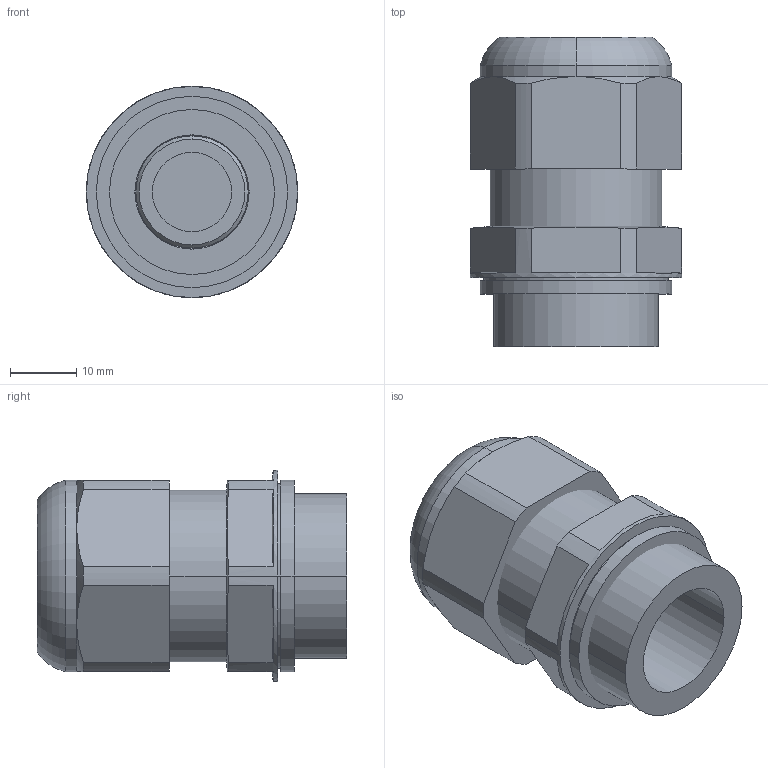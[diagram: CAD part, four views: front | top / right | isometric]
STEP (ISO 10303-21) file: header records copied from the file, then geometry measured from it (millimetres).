
FILE_DESCRIPTION (( 'STEP AP203' ), '1' );
FILE_NAME ('8161_5-M25-17-ap203.STEP', '2013-07-11T09:12:33', ( 'Admin' ), ( 'R. STAHL AG' ), 'SwSTEP 2.0', 'SolidWorks 2013', '' );
FILE_SCHEMA (( 'CONFIG_CONTROL_DESIGN' ));
Length unit declared in the file: millimetre
Products named in the file (7): Anschlussgewindedichtung_M25; Staubschutzkappe_M25; 8161_5-M25-17-ap203; 81_610_78_01_0_Stutzen_Vereinfacht; 81_610_78_01_0_Dichtung; 81_610_78_01_0_Reduzierdichtung; 81_610_86_01_0_Hutmutter_Vereinfacht
Assembly tree (6 placements, depth 2):
  8161_5-M25-17-ap203
    81_610_78_01_0_Stutzen_Vereinfacht
    81_610_78_01_0_Dichtung
    81_610_78_01_0_Reduzierdichtung
    81_610_86_01_0_Hutmutter_Vereinfacht
    Anschlussgewindedichtung_M25
    Staubschutzkappe_M25
Bounding box: 32 x 46.92 x 32 mm (x, y, z)
Volume: 20213.2 mm3; surface area: 15527.1 mm2
Topology: 6 solids, 6 shells, 444 faces, 1181 edges, 732 vertices
Faces by surface type: plane 142, cone 123, cylinder 108, torus 53, bspline 18
Entity records: 14623 total; most frequent: CARTESIAN_POINT 2922, DIRECTION 2365, ORIENTED_EDGE 2326, EDGE_CURVE 1163, AXIS2_PLACEMENT_3D 899, VERTEX_POINT 732, VECTOR 567, LINE 567
